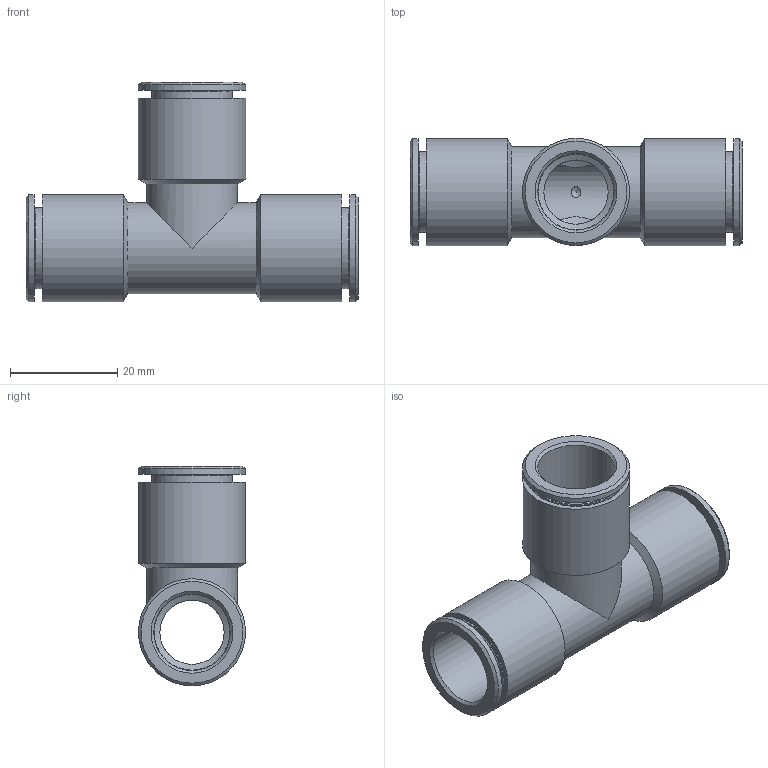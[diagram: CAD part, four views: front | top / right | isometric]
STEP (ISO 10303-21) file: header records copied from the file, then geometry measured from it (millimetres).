
FILE_DESCRIPTION(('Bauteilbeschreibung','HiCAD-Model','HiCAD-STEP-TRANSLATION','Bauteilbeschreibung'),'2;1');
FILE_NAME('B:/ABGLEICH/ZEICHNUNGEN/STEP FÜR INTERNET/STEP/200507_IPSO_05_14.STP','2011-07-22T14:16:48+00:00',('Konstrukteur'),('Konstrukteur Firma GmbH'),' HiCAD neXt 2008, Step 3.1.1401.2J ','HiCAD neXt 2008','confidential');
FILE_SCHEMA(('AUTOMOTIVE_DESIGN { 1 2 10303 214 0 1 1 1 }'));
Length unit declared in the file: millimetre
Products named in the file (5): A00507_IPSO_05_14; DR14_5; DR1405; DR14050; R200507
Assembly tree (4 placements, depth 2):
  A00507_IPSO_05_14
    DR14_5
    DR1405
    DR14050
    R200507
Bounding box: 62 x 20 x 41 mm (x, y, z)
Volume: 8743.7 mm3; surface area: 13932.7 mm2
Topology: 4 solids, 4 shells, 102 faces, 203 edges, 117 vertices
Faces by surface type: cone 36, cylinder 36, plane 18, torus 12
Full cylindrical faces by diameter (mm): 12 x2, 14.15 x3, 14.3 x3, 15.1 x3, 15.2 x3, 16.2 x3, 16.5 x3, 17 x2, 17.3 x3, 18.1 x3, 20 x6
Entity records: 3034 total; most frequent: CARTESIAN_POINT 563, DIRECTION 432, ORIENTED_EDGE 222, AXIS2_PLACEMENT_3D 216, EDGE_LOOP 204, EDGE_CURVE 111, COLOUR_RGB 110, PRESENTATION_STYLE_ASSIGNMENT 110
